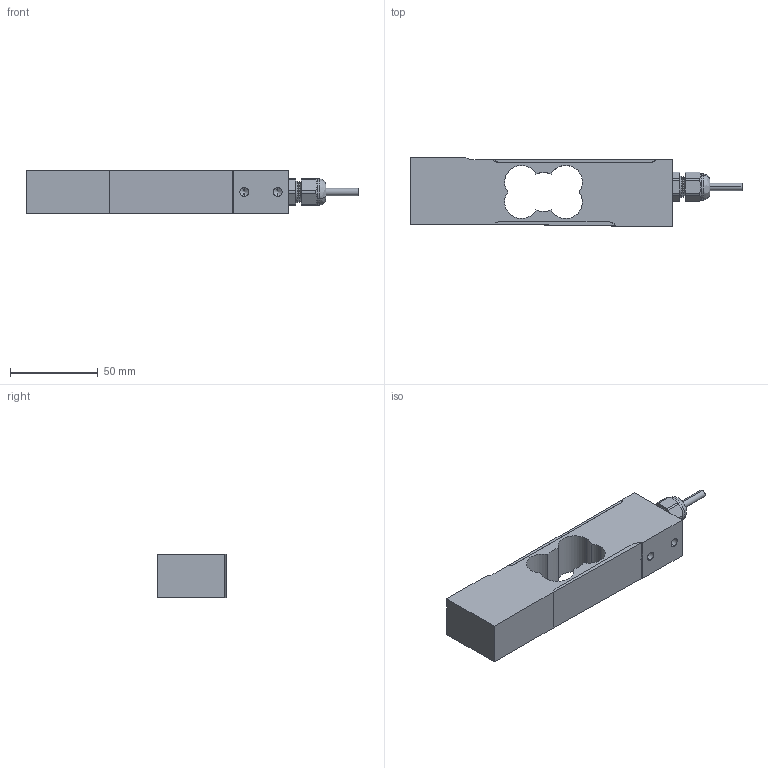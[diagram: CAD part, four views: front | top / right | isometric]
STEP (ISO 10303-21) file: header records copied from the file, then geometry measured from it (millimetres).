
FILE_DESCRIPTION (( 'STEP AP203' ), '1' );
FILE_NAME ('HI SP1-15KG-100KG.STEP', '2023-07-07T19:41:49', ( '' ), ( '' ), 'SwSTEP 2.0', 'SolidWorks 2020', '' );
FILE_SCHEMA (( 'CONFIG_CONTROL_DESIGN' ));
Length unit declared in the file: millimetre
Products named in the file (5): Part1^0020689; 0019035; 0042289; 0019723; HI SP1-15KG-100KG
Assembly tree (4 placements, depth 2):
  HI SP1-15KG-100KG
    0019723
    0042289
    0019035
    Part1^0020689
Bounding box: 189.45 x 39.9 x 25 mm (x, y, z)
Volume: 110033.9 mm3; surface area: 37001.3 mm2
Topology: 6 solids, 6 shells, 220 faces, 516 edges, 307 vertices
Faces by surface type: cone 102, cylinder 59, plane 51, bspline 6, torus 2
Entity records: 6921 total; most frequent: CARTESIAN_POINT 1292, DIRECTION 1168, ORIENTED_EDGE 1012, EDGE_CURVE 506, AXIS2_PLACEMENT_3D 459, VERTEX_POINT 307, VECTOR 250, LINE 250
